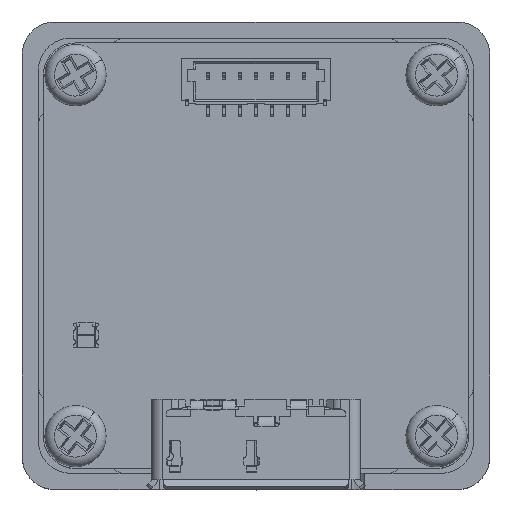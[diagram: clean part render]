
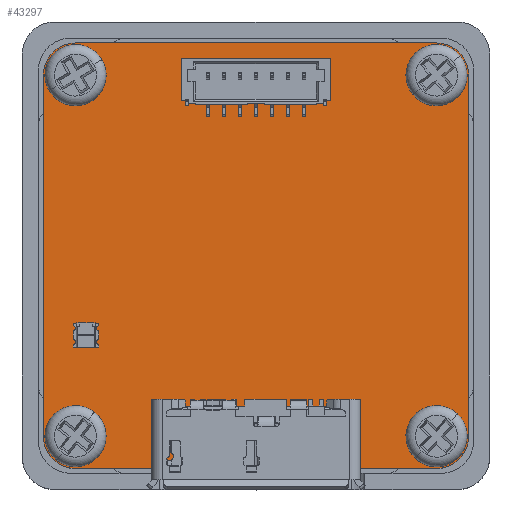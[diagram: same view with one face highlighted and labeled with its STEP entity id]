
A CAD part, top view. The second image highlights one B-rep face of the part: STEP entity #43297.
In plain terms, the highlighted planar face has unit normal (0, 0, 1).
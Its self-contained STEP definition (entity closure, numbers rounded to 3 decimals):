
#578 = ORIENTED_EDGE ( 'NONE', *, *, #2955, .T. ) ;
#670 = LINE ( 'NONE', #55435, #57184 ) ;
#1030 = DIRECTION ( 'NONE',  ( 0., 0., 1. ) ) ;
#1909 = DIRECTION ( 'NONE',  ( 1., 0., 0. ) ) ;
#2090 = DIRECTION ( 'NONE',  ( -1., 0., 0. ) ) ;
#2123 = CARTESIAN_POINT ( 'NONE',  ( 2., 0., 1.201 ) ) ;
#2302 = CARTESIAN_POINT ( 'NONE',  ( 2., 24.4, 1.201 ) ) ;
#2955 = EDGE_CURVE ( 'NONE', #54561, #35486, #17771, .T. ) ;
#3602 = VERTEX_POINT ( 'NONE', #56219 ) ;
#3902 = AXIS2_PLACEMENT_3D ( 'NONE', #58553, #4496, #15581 ) ;
#4407 = EDGE_LOOP ( 'NONE', ( #13702, #22272 ) ) ;
#4496 = DIRECTION ( 'NONE',  ( 0., 0., 1. ) ) ;
#4678 = ORIENTED_EDGE ( 'NONE', *, *, #26321, .F. ) ;
#4757 = CARTESIAN_POINT ( 'NONE',  ( 0., 2., 1.201 ) ) ;
#4833 = CIRCLE ( 'NONE', #18793, 2. ) ;
#5096 = DIRECTION ( 'NONE',  ( 0., 0., 1. ) ) ;
#5572 = AXIS2_PLACEMENT_3D ( 'NONE', #19569, #73681, #24726 ) ;
#6309 = CIRCLE ( 'NONE', #12641, 1.1 ) ;
#6919 = CARTESIAN_POINT ( 'NONE',  ( 26.4, 24.4, 1.201 ) ) ;
#7156 = CARTESIAN_POINT ( 'NONE',  ( 0., 24.4, 1.201 ) ) ;
#7302 = CARTESIAN_POINT ( 'NONE',  ( 24.4, 2., 1.201 ) ) ;
#7348 = CARTESIAN_POINT ( 'NONE',  ( 2., 24.4, 1.201 ) ) ;
#9051 = PLANE ( 'NONE',  #41042 ) ;
#9102 = EDGE_CURVE ( 'NONE', #38103, #55097, #76568, .T. ) ;
#9115 = EDGE_CURVE ( 'NONE', #77473, #59966, #39908, .T. ) ;
#10363 = EDGE_CURVE ( 'NONE', #59966, #77473, #41614, .T. ) ;
#10717 = CARTESIAN_POINT ( 'NONE',  ( 26.4, 2., 1.201 ) ) ;
#11027 = CIRCLE ( 'NONE', #56352, 2. ) ;
#12403 = ORIENTED_EDGE ( 'NONE', *, *, #19211, .T. ) ;
#12483 = DIRECTION ( 'NONE',  ( 1., 0., 0. ) ) ;
#12641 = AXIS2_PLACEMENT_3D ( 'NONE', #52101, #5096, #71444 ) ;
#13080 = VERTEX_POINT ( 'NONE', #40499 ) ;
#13626 = DIRECTION ( 'NONE',  ( -1., 0., 0. ) ) ;
#13702 = ORIENTED_EDGE ( 'NONE', *, *, #57014, .F. ) ;
#14539 = CARTESIAN_POINT ( 'NONE',  ( 2., 2., 1.201 ) ) ;
#15194 = EDGE_CURVE ( 'NONE', #35486, #38505, #49447, .T. ) ;
#15581 = DIRECTION ( 'NONE',  ( 1., 0., 0. ) ) ;
#16990 = CARTESIAN_POINT ( 'NONE',  ( 2., 26.4, 1.201 ) ) ;
#17370 = EDGE_CURVE ( 'NONE', #32629, #66092, #61649, .T. ) ;
#17756 = ORIENTED_EDGE ( 'NONE', *, *, #15194, .T. ) ;
#17771 = CIRCLE ( 'NONE', #3902, 2. ) ;
#18793 = AXIS2_PLACEMENT_3D ( 'NONE', #7302, #62535, #49091 ) ;
#19211 = EDGE_CURVE ( 'NONE', #43155, #68297, #43952, .T. ) ;
#19231 = AXIS2_PLACEMENT_3D ( 'NONE', #19949, #68089, #13626 ) ;
#19569 = CARTESIAN_POINT ( 'NONE',  ( 2., 2., 1.201 ) ) ;
#19949 = CARTESIAN_POINT ( 'NONE',  ( 24.4, 24.4, 1.201 ) ) ;
#20660 = CARTESIAN_POINT ( 'NONE',  ( 25.5, 2., 1.201 ) ) ;
#21653 = CARTESIAN_POINT ( 'NONE',  ( 2., 24.4, 1.201 ) ) ;
#22272 = ORIENTED_EDGE ( 'NONE', *, *, #9102, .F. ) ;
#23997 = EDGE_LOOP ( 'NONE', ( #28198, #45203 ) ) ;
#24726 = DIRECTION ( 'NONE',  ( 1., 0., 0. ) ) ;
#25921 = DIRECTION ( 'NONE',  ( 0., 0., 1. ) ) ;
#26243 = DIRECTION ( 'NONE',  ( 1., 0., 0. ) ) ;
#26321 = EDGE_CURVE ( 'NONE', #66092, #32629, #31617, .T. ) ;
#26397 = AXIS2_PLACEMENT_3D ( 'NONE', #77806, #59956, #54778 ) ;
#27243 = EDGE_LOOP ( 'NONE', ( #64367, #45036 ) ) ;
#28134 = EDGE_CURVE ( 'NONE', #13080, #66980, #6309, .T. ) ;
#28198 = ORIENTED_EDGE ( 'NONE', *, *, #10363, .F. ) ;
#28725 = VECTOR ( 'NONE', #2090, 1000. ) ;
#29156 = EDGE_LOOP ( 'NONE', ( #4678, #41196 ) ) ;
#31617 = CIRCLE ( 'NONE', #74444, 1.1 ) ;
#32629 = VERTEX_POINT ( 'NONE', #64024 ) ;
#33382 = EDGE_CURVE ( 'NONE', #3602, #54561, #76670, .T. ) ;
#33456 = ORIENTED_EDGE ( 'NONE', *, *, #69397, .T. ) ;
#34767 = CARTESIAN_POINT ( 'NONE',  ( 0.9, 2., 1.201 ) ) ;
#34966 = VECTOR ( 'NONE', #26243, 1000. ) ;
#35486 = VERTEX_POINT ( 'NONE', #69030 ) ;
#36602 = ORIENTED_EDGE ( 'NONE', *, *, #78208, .T. ) ;
#36798 = CARTESIAN_POINT ( 'NONE',  ( 23.3, 24.4, 1.201 ) ) ;
#36961 = CARTESIAN_POINT ( 'NONE',  ( 3.1, 24.4, 1.201 ) ) ;
#37784 = EDGE_CURVE ( 'NONE', #38505, #63680, #11027, .T. ) ;
#37998 = CARTESIAN_POINT ( 'NONE',  ( 24.4, 26.4, 1.201 ) ) ;
#38103 = VERTEX_POINT ( 'NONE', #36798 ) ;
#38505 = VERTEX_POINT ( 'NONE', #16990 ) ;
#38628 = ORIENTED_EDGE ( 'NONE', *, *, #37784, .T. ) ;
#39324 = CARTESIAN_POINT ( 'NONE',  ( 24.4, 24.4, 1.201 ) ) ;
#39908 = CIRCLE ( 'NONE', #62671, 1.1 ) ;
#40499 = CARTESIAN_POINT ( 'NONE',  ( 0.9, 24.4, 1.201 ) ) ;
#41042 = AXIS2_PLACEMENT_3D ( 'NONE', #21653, #62300, #67465 ) ;
#41196 = ORIENTED_EDGE ( 'NONE', *, *, #17370, .F. ) ;
#41614 = CIRCLE ( 'NONE', #50473, 1.1 ) ;
#43155 = VERTEX_POINT ( 'NONE', #77017 ) ;
#43297 = ADVANCED_FACE ( 'NONE', ( #46079, #70182, #68631, #75367, #75779 ), #9051, .T. ) ;
#43952 = LINE ( 'NONE', #2123, #34966 ) ;
#45036 = ORIENTED_EDGE ( 'NONE', *, *, #28134, .F. ) ;
#45203 = ORIENTED_EDGE ( 'NONE', *, *, #9115, .F. ) ;
#45620 = CIRCLE ( 'NONE', #55653, 1.1 ) ;
#46079 = FACE_BOUND ( 'NONE', #23997, .T. ) ;
#46363 = EDGE_LOOP ( 'NONE', ( #38628, #33456, #36602, #12403, #58996, #77347, #578, #17756 ) ) ;
#49091 = DIRECTION ( 'NONE',  ( 1., 0., 0. ) ) ;
#49447 = LINE ( 'NONE', #37998, #28725 ) ;
#49581 = DIRECTION ( 'NONE',  ( 0., -1., 0. ) ) ;
#50473 = AXIS2_PLACEMENT_3D ( 'NONE', #14539, #63061, #69749 ) ;
#51555 = DIRECTION ( 'NONE',  ( 0., 0., 1. ) ) ;
#52101 = CARTESIAN_POINT ( 'NONE',  ( 2., 24.4, 1.201 ) ) ;
#52720 = CARTESIAN_POINT ( 'NONE',  ( 2., 2., 1.201 ) ) ;
#53218 = CIRCLE ( 'NONE', #19231, 1.1 ) ;
#53488 = DIRECTION ( 'NONE',  ( -1., 0., 0. ) ) ;
#54561 = VERTEX_POINT ( 'NONE', #6919 ) ;
#54590 = EDGE_CURVE ( 'NONE', #68297, #3602, #4833, .T. ) ;
#54778 = DIRECTION ( 'NONE',  ( 1., 0., 0. ) ) ;
#55097 = VERTEX_POINT ( 'NONE', #58241 ) ;
#55435 = CARTESIAN_POINT ( 'NONE',  ( 0., 24.4, 1.201 ) ) ;
#55653 = AXIS2_PLACEMENT_3D ( 'NONE', #2302, #61908, #1909 ) ;
#56219 = CARTESIAN_POINT ( 'NONE',  ( 26.4, 2., 1.201 ) ) ;
#56352 = AXIS2_PLACEMENT_3D ( 'NONE', #7348, #1030, #12483 ) ;
#57014 = EDGE_CURVE ( 'NONE', #55097, #38103, #53218, .T. ) ;
#57184 = VECTOR ( 'NONE', #49581, 1000. ) ;
#58241 = CARTESIAN_POINT ( 'NONE',  ( 25.5, 24.4, 1.201 ) ) ;
#58553 = CARTESIAN_POINT ( 'NONE',  ( 24.4, 24.4, 1.201 ) ) ;
#58996 = ORIENTED_EDGE ( 'NONE', *, *, #54590, .T. ) ;
#59956 = DIRECTION ( 'NONE',  ( 0., 0., 1. ) ) ;
#59966 = VERTEX_POINT ( 'NONE', #67854 ) ;
#61649 = CIRCLE ( 'NONE', #26397, 1.1 ) ;
#61908 = DIRECTION ( 'NONE',  ( 0., 0., 1. ) ) ;
#62300 = DIRECTION ( 'NONE',  ( 0., 0., 1. ) ) ;
#62411 = CARTESIAN_POINT ( 'NONE',  ( 24.4, 0., 1.201 ) ) ;
#62535 = DIRECTION ( 'NONE',  ( 0., 0., 1. ) ) ;
#62671 = AXIS2_PLACEMENT_3D ( 'NONE', #52720, #76868, #53488 ) ;
#63061 = DIRECTION ( 'NONE',  ( 0., 0., 1. ) ) ;
#63680 = VERTEX_POINT ( 'NONE', #7156 ) ;
#63819 = DIRECTION ( 'NONE',  ( -1., 0., 0. ) ) ;
#64024 = CARTESIAN_POINT ( 'NONE',  ( 23.3, 2., 1.201 ) ) ;
#64144 = DIRECTION ( 'NONE',  ( 1., 0., 0. ) ) ;
#64367 = ORIENTED_EDGE ( 'NONE', *, *, #67938, .F. ) ;
#66092 = VERTEX_POINT ( 'NONE', #20660 ) ;
#66980 = VERTEX_POINT ( 'NONE', #36961 ) ;
#67465 = DIRECTION ( 'NONE',  ( 1., 0., 0. ) ) ;
#67854 = CARTESIAN_POINT ( 'NONE',  ( 3.1, 2., 1.201 ) ) ;
#67938 = EDGE_CURVE ( 'NONE', #66980, #13080, #45620, .T. ) ;
#68089 = DIRECTION ( 'NONE',  ( 0., 0., 1. ) ) ;
#68297 = VERTEX_POINT ( 'NONE', #62411 ) ;
#68631 = FACE_BOUND ( 'NONE', #4407, .T. ) ;
#69030 = CARTESIAN_POINT ( 'NONE',  ( 24.4, 26.4, 1.201 ) ) ;
#69397 = EDGE_CURVE ( 'NONE', #63680, #77507, #670, .T. ) ;
#69749 = DIRECTION ( 'NONE',  ( -1., 0., 0. ) ) ;
#70182 = FACE_BOUND ( 'NONE', #29156, .T. ) ;
#71444 = DIRECTION ( 'NONE',  ( 1., 0., 0. ) ) ;
#71502 = VECTOR ( 'NONE', #77066, 1000. ) ;
#72391 = CIRCLE ( 'NONE', #5572, 2. ) ;
#73681 = DIRECTION ( 'NONE',  ( 0., 0., 1. ) ) ;
#74444 = AXIS2_PLACEMENT_3D ( 'NONE', #74476, #25921, #64144 ) ;
#74476 = CARTESIAN_POINT ( 'NONE',  ( 24.4, 2., 1.201 ) ) ;
#75273 = AXIS2_PLACEMENT_3D ( 'NONE', #39324, #51555, #63819 ) ;
#75367 = FACE_BOUND ( 'NONE', #27243, .T. ) ;
#75779 = FACE_OUTER_BOUND ( 'NONE', #46363, .T. ) ;
#76568 = CIRCLE ( 'NONE', #75273, 1.1 ) ;
#76670 = LINE ( 'NONE', #10717, #71502 ) ;
#76868 = DIRECTION ( 'NONE',  ( 0., 0., 1. ) ) ;
#77017 = CARTESIAN_POINT ( 'NONE',  ( 2., 0., 1.201 ) ) ;
#77066 = DIRECTION ( 'NONE',  ( 0., 1., 0. ) ) ;
#77347 = ORIENTED_EDGE ( 'NONE', *, *, #33382, .T. ) ;
#77473 = VERTEX_POINT ( 'NONE', #34767 ) ;
#77507 = VERTEX_POINT ( 'NONE', #4757 ) ;
#77806 = CARTESIAN_POINT ( 'NONE',  ( 24.4, 2., 1.201 ) ) ;
#78208 = EDGE_CURVE ( 'NONE', #77507, #43155, #72391, .T. ) ;
